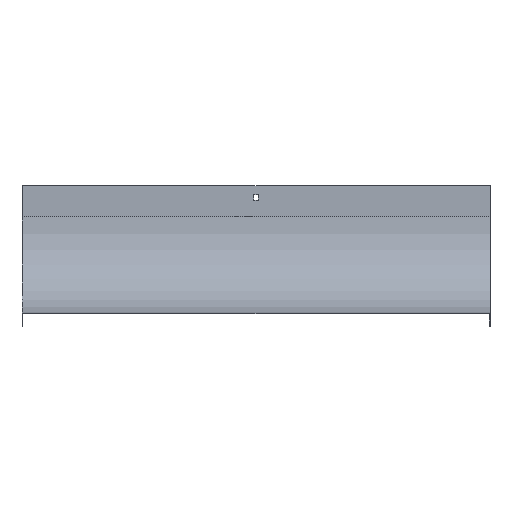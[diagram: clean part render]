
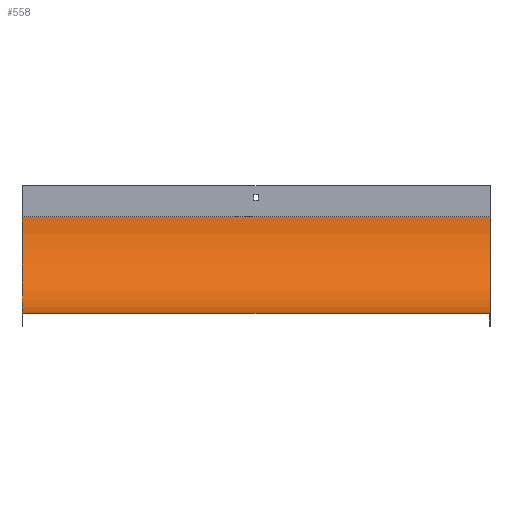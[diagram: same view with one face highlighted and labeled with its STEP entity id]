
A CAD part, top view. The second image highlights one B-rep face of the part: STEP entity #558.
In plain terms, the highlighted cylindrical face has radius 124 mm (diameter 248 mm), a partial arc.
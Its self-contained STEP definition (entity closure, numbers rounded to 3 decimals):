
#2 = CARTESIAN_POINT ( 'NONE',  ( -301., 0., -40. ) ) ;
#39 = ORIENTED_EDGE ( 'NONE', *, *, #209, .F. ) ;
#91 = CARTESIAN_POINT ( 'NONE',  ( 301., 0., -40. ) ) ;
#96 = DIRECTION ( 'NONE',  ( 0., 0., -1. ) ) ;
#99 = EDGE_LOOP ( 'NONE', ( #844, #39, #205, #195 ) ) ;
#110 = VECTOR ( 'NONE', #353, 1000. ) ;
#122 = VECTOR ( 'NONE', #720, 1000. ) ;
#147 = AXIS2_PLACEMENT_3D ( 'NONE', #643, #440, #248 ) ;
#156 = CARTESIAN_POINT ( 'NONE',  ( -301., 124., -40. ) ) ;
#172 = FACE_OUTER_BOUND ( 'NONE', #99, .T. ) ;
#186 = CARTESIAN_POINT ( 'NONE',  ( 301., 0., -40. ) ) ;
#195 = ORIENTED_EDGE ( 'NONE', *, *, #407, .T. ) ;
#205 = ORIENTED_EDGE ( 'NONE', *, *, #386, .F. ) ;
#206 = AXIS2_PLACEMENT_3D ( 'NONE', #156, #422, #690 ) ;
#209 = EDGE_CURVE ( 'NONE', #370, #278, #782, .T. ) ;
#227 = CARTESIAN_POINT ( 'NONE',  ( 301., 124., -164. ) ) ;
#248 = DIRECTION ( 'NONE',  ( 0., 0., 1. ) ) ;
#252 = VERTEX_POINT ( 'NONE', #731 ) ;
#278 = VERTEX_POINT ( 'NONE', #2 ) ;
#280 = LINE ( 'NONE', #227, #110 ) ;
#353 = DIRECTION ( 'NONE',  ( -1., 0., 0. ) ) ;
#368 = DIRECTION ( 'NONE',  ( -1., 0., 0. ) ) ;
#370 = VERTEX_POINT ( 'NONE', #91 ) ;
#386 = EDGE_CURVE ( 'NONE', #252, #370, #638, .T. ) ;
#407 = EDGE_CURVE ( 'NONE', #252, #469, #280, .T. ) ;
#422 = DIRECTION ( 'NONE',  ( -1., 0., 0. ) ) ;
#440 = DIRECTION ( 'NONE',  ( -1., 0., 0. ) ) ;
#469 = VERTEX_POINT ( 'NONE', #822 ) ;
#473 = EDGE_CURVE ( 'NONE', #469, #278, #706, .T. ) ;
#509 = CYLINDRICAL_SURFACE ( 'NONE', #147, 124. ) ;
#558 = ADVANCED_FACE ( 'NONE', ( #172 ), #509, .F. ) ;
#638 = CIRCLE ( 'NONE', #742, 124. ) ;
#643 = CARTESIAN_POINT ( 'NONE',  ( 301., 124., -40. ) ) ;
#690 = DIRECTION ( 'NONE',  ( 0., 0., -1. ) ) ;
#696 = CARTESIAN_POINT ( 'NONE',  ( 301., 124., -40. ) ) ;
#706 = CIRCLE ( 'NONE', #206, 124. ) ;
#720 = DIRECTION ( 'NONE',  ( -1., 0., 0. ) ) ;
#731 = CARTESIAN_POINT ( 'NONE',  ( 301., 124., -164. ) ) ;
#742 = AXIS2_PLACEMENT_3D ( 'NONE', #696, #368, #96 ) ;
#782 = LINE ( 'NONE', #186, #122 ) ;
#822 = CARTESIAN_POINT ( 'NONE',  ( -301., 124., -164. ) ) ;
#844 = ORIENTED_EDGE ( 'NONE', *, *, #473, .T. ) ;
